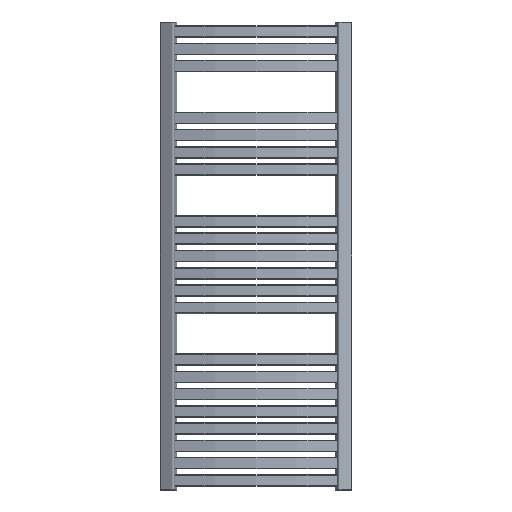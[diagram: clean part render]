
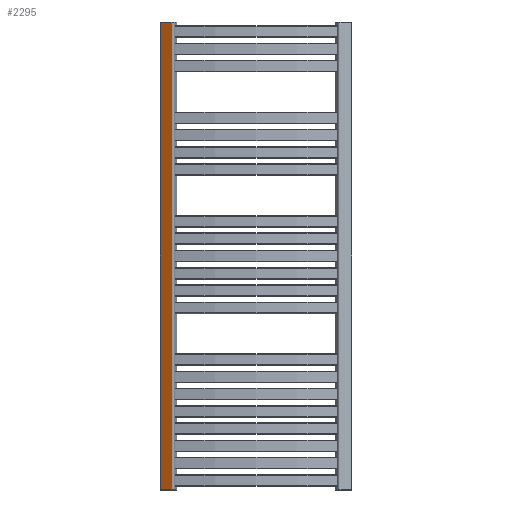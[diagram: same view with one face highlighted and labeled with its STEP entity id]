
A CAD part, front view. The second image highlights one B-rep face of the part: STEP entity #2295.
In plain terms, the highlighted planar face has unit normal (-0.515, -0.857, 0).
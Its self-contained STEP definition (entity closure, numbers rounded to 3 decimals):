
#249=CARTESIAN_POINT('',(-248.242,-5.701,1.5));
#250=VERTEX_POINT('',#249);
#298=CARTESIAN_POINT('',(-218.958,-23.297,1.5));
#299=VERTEX_POINT('',#298);
#307=CARTESIAN_POINT('',(-218.958,-23.297,1.5));
#308=DIRECTION('',(-0.857,0.515,0.0));
#309=VECTOR('',#308,34.164);
#310=LINE('',#307,#309);
#311=EDGE_CURVE('',#299,#250,#310,.T.);
#524=CARTESIAN_POINT('',(-248.242,-5.701,1218.5));
#525=VERTEX_POINT('',#524);
#526=CARTESIAN_POINT('',(-248.242,-5.701,1.5));
#527=DIRECTION('',(0.0,0.0,1.0));
#528=VECTOR('',#527,1217.0);
#529=LINE('',#526,#528);
#530=EDGE_CURVE('',#250,#525,#529,.T.);
#582=CARTESIAN_POINT('',(-218.958,-23.297,1218.5));
#583=VERTEX_POINT('',#582);
#600=CARTESIAN_POINT('',(-248.242,-5.701,1218.5));
#601=DIRECTION('',(0.857,-0.515,0.0));
#602=VECTOR('',#601,34.164);
#603=LINE('',#600,#602);
#604=EDGE_CURVE('',#525,#583,#603,.T.);
#2275=CARTESIAN_POINT('',(-218.958,-23.297,1218.5));
#2276=DIRECTION('',(0.0,0.0,-1.0));
#2277=VECTOR('',#2276,1217.0);
#2278=LINE('',#2275,#2277);
#2279=EDGE_CURVE('',#583,#299,#2278,.T.);
#2284=CARTESIAN_POINT('',(-215.048,-25.646,0.0));
#2285=DIRECTION('',(-0.515,-0.857,0.0));
#2286=DIRECTION('',(0.0,0.0,1.0));
#2287=AXIS2_PLACEMENT_3D('',#2284,#2285,#2286);
#2288=PLANE('',#2287);
#2289=ORIENTED_EDGE('',*,*,#311,.F.);
#2290=ORIENTED_EDGE('',*,*,#2279,.F.);
#2291=ORIENTED_EDGE('',*,*,#604,.F.);
#2292=ORIENTED_EDGE('',*,*,#530,.F.);
#2293=EDGE_LOOP('',(#2289,#2290,#2291,#2292));
#2294=FACE_OUTER_BOUND('',#2293,.T.);
#2295=ADVANCED_FACE('',(#2294),#2288,.T.);
